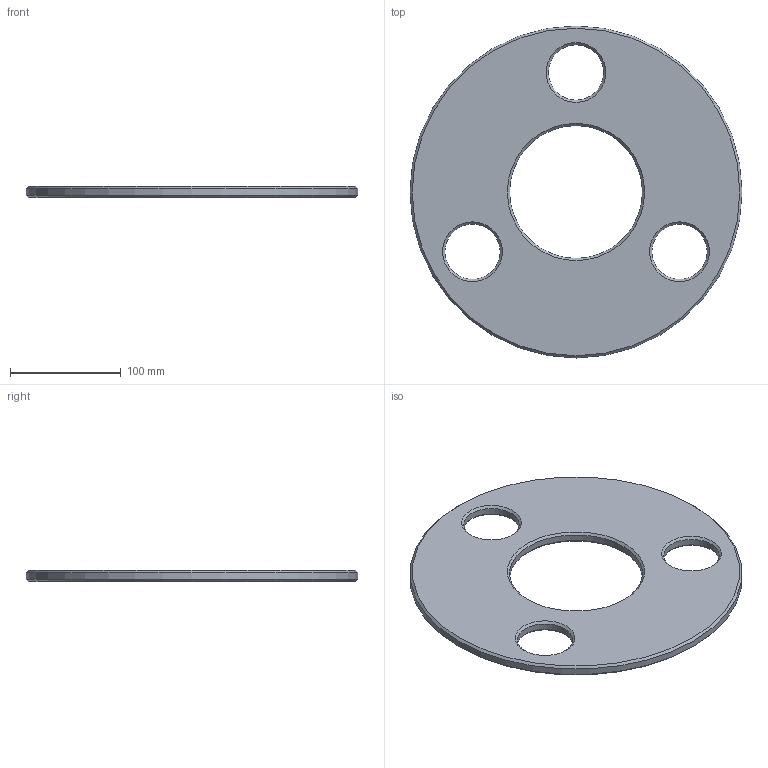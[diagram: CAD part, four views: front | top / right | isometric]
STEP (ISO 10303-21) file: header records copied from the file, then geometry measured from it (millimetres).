
FILE_DESCRIPTION(/* description */ (''),/* implementation_level */ '2;1');
FILE_NAME(/* name */ 'C:\Users\jbart\OneDrive\Plocha\Nová složka\3D modely - stp\Unášeč A-1.stp',/* time_stamp */ '2025-05-15T16:51:39+02:00',/* author */ ('jbart'),/* organization */ (''),/* preprocessor_version */ 'ST-DEVELOPER v18.1',/* originating_system */ 'Autodesk Inventor 2022',/* authorisation */ '');
FILE_SCHEMA (('AUTOMOTIVE_DESIGN { 1 0 10303 214 3 1 1 }'));
Length unit declared in the file: millimetre
Products named in the file (1): Unášeč A-1
Bounding box: 300 x 300 x 10 mm (x, y, z)
Volume: 527643.1 mm3; surface area: 120713.6 mm2
Topology: 1 solids, 1 shells, 17 faces, 37 edges, 22 vertices
Faces by surface type: cone 10, cylinder 5, plane 2
Full cylindrical faces by diameter (mm): 50 x3, 120 x1, 300 x1
Entity records: 524 total; most frequent: DIRECTION 95, CARTESIAN_POINT 77, ORIENTED_EDGE 74, AXIS2_PLACEMENT_3D 40, EDGE_CURVE 37, EDGE_LOOP 25, CIRCLE 22, VERTEX_POINT 22
